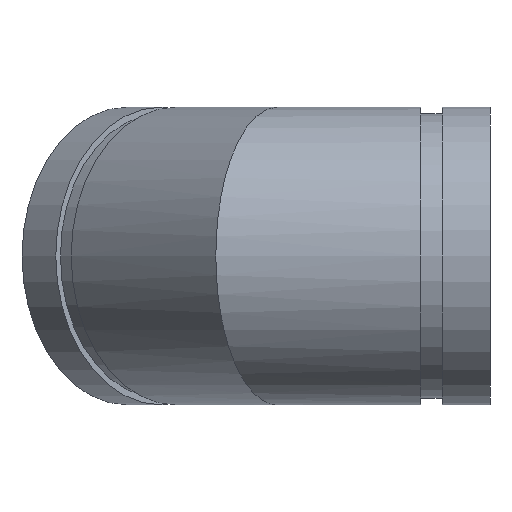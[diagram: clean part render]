
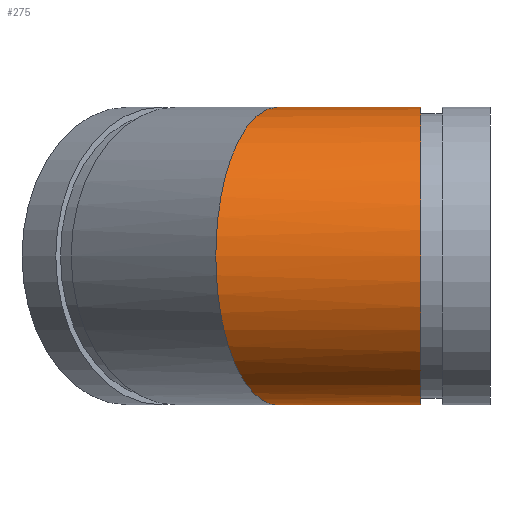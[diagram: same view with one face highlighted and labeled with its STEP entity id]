
A CAD part, left-side view. The second image highlights one B-rep face of the part: STEP entity #275.
In plain terms, the highlighted cylindrical face has radius 44.45 mm (diameter 88.9 mm), a full revolution.
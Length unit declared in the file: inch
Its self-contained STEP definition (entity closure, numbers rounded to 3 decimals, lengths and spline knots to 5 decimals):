
#48=ELLIPSE('',#329,1.89419,1.75);
#49=ELLIPSE('',#330,1.89419,1.75);
#50=ELLIPSE('',#331,1.89419,1.75);
#73=FACE_OUTER_BOUND('',#91,.T.);
#91=EDGE_LOOP('',(#225,#226,#227,#228,#229,#230));
#103=LINE('',#513,#111);
#111=VECTOR('',#416,1.75);
#117=CIRCLE('',#305,1.75);
#133=VERTEX_POINT('',#468);
#148=VERTEX_POINT('',#512);
#149=VERTEX_POINT('',#514);
#150=VERTEX_POINT('',#516);
#156=EDGE_CURVE('',#133,#133,#117,.T.);
#176=EDGE_CURVE('',#133,#148,#103,.T.);
#177=EDGE_CURVE('',#148,#149,#48,.T.);
#178=EDGE_CURVE('',#150,#149,#49,.T.);
#179=EDGE_CURVE('',#150,#148,#50,.T.);
#225=ORIENTED_EDGE('',*,*,#156,.T.);
#226=ORIENTED_EDGE('',*,*,#176,.T.);
#227=ORIENTED_EDGE('',*,*,#177,.T.);
#228=ORIENTED_EDGE('',*,*,#178,.F.);
#229=ORIENTED_EDGE('',*,*,#179,.T.);
#230=ORIENTED_EDGE('',*,*,#176,.F.);
#247=CYLINDRICAL_SURFACE('',#328,1.75);
#275=ADVANCED_FACE('',(#73),#247,.T.);
#305=AXIS2_PLACEMENT_3D('',#469,#363,#364);
#328=AXIS2_PLACEMENT_3D('',#511,#414,#415);
#329=AXIS2_PLACEMENT_3D('',#515,#417,#418);
#330=AXIS2_PLACEMENT_3D('',#517,#419,#420);
#331=AXIS2_PLACEMENT_3D('',#518,#421,#422);
#363=DIRECTION('center_axis',(0.,1.,0.));
#364=DIRECTION('ref_axis',(1.,0.,0.));
#414=DIRECTION('center_axis',(0.,-1.,0.));
#415=DIRECTION('ref_axis',(1.,0.,0.));
#416=DIRECTION('',(0.,1.,0.));
#417=DIRECTION('center_axis',(-0.383,-0.924,0.));
#418=DIRECTION('ref_axis',(0.924,-0.383,0.));
#419=DIRECTION('center_axis',(0.383,0.924,0.));
#420=DIRECTION('ref_axis',(0.924,-0.383,0.));
#421=DIRECTION('center_axis',(-0.383,-0.924,0.));
#422=DIRECTION('ref_axis',(0.924,-0.383,0.));
#468=CARTESIAN_POINT('',(-1.75,-1.683,0.));
#469=CARTESIAN_POINT('Origin',(0.,-1.683,0.));
#511=CARTESIAN_POINT('Origin',(0.,0.,0.));
#512=CARTESIAN_POINT('',(-1.75,0.72487,0.));
#513=CARTESIAN_POINT('',(-1.75,0.,0.));
#514=CARTESIAN_POINT('',(0.,0.,-1.75));
#515=CARTESIAN_POINT('Origin',(0.,0.,0.));
#516=CARTESIAN_POINT('',(0.,0.,1.75));
#517=CARTESIAN_POINT('Origin',(0.,0.,0.));
#518=CARTESIAN_POINT('Origin',(0.,0.,0.));
